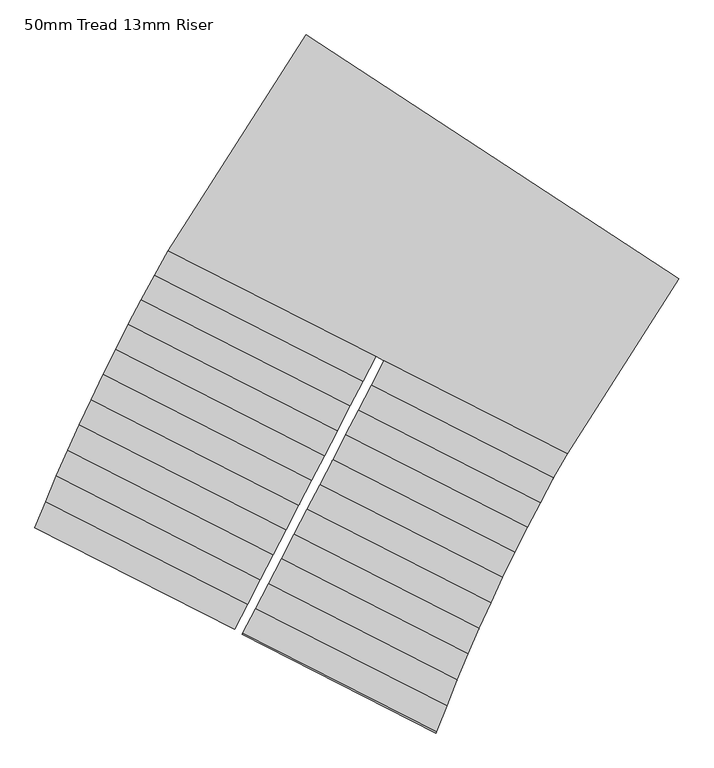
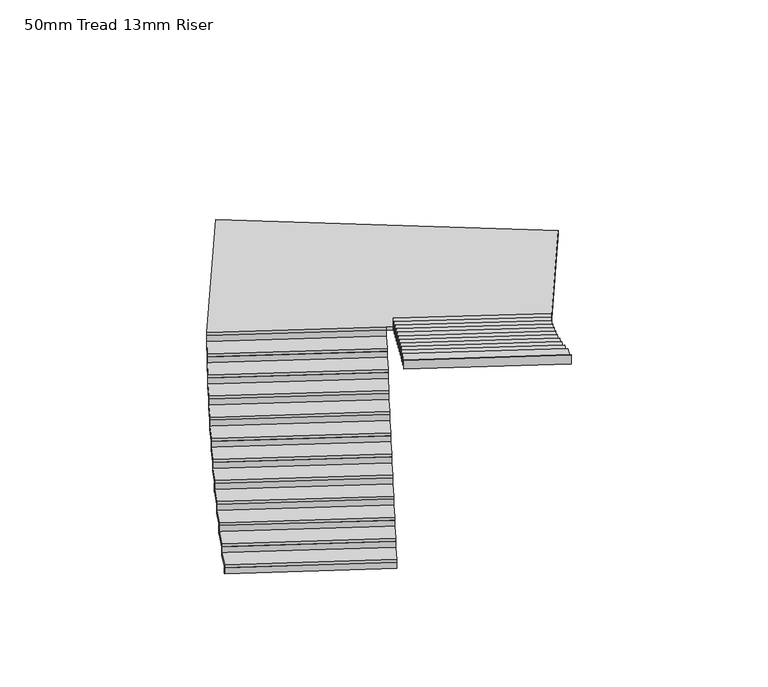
"""IFC4 building model written with IfcOpenShell, lengths in millimetres: stair flight geometry, 50mm Tread 13mm Riser."""

from ifc_helpers import new_model, si_unit, point, frame, frame_2d, origin, place, context, project, spatial, polyline, circle_curve, trimmed, segment, composite_curve, outline, extrude, source, transform, mapped, element, save


def stair_flight_50mm_tread_13mm_riser_db531893(model_context):
    return source(origin(), model_context, "Body", "SweptSolid", [
        extrude(outline(composite_curve([segment(polyline([(7243.3997598, -26018.0316031), (7237.6463466, -26029.1292848), (5092.865947, -24939.2065624)]), True, "CONTINUOUS"), segment(trimmed(circle_curve(frame_2d((28463.2186017, -34366.1157481)), 25200.0), [point((5092.865947, -24939.2065624))], [point((5097.5624416, -24927.5717816))], False, "CARTESIAN"), True, "CONTINUOUS"), segment(polyline([(5097.5624416, -24927.5717816), (7243.3997598, -26018.0316031)]), True, "CONTINUOUS")], self_intersect=False)), frame((0.0, 0.0, 3600.0), z_axis=(0.0, 0.0, 1.0), x_axis=(1.0, 0.0, 0.0)), (0.0, 0.0, 1.0), 100.0),
        extrude(outline(composite_curve([segment(polyline([(5207.1231707, -24660.7551002), (7375.7282632, -25762.7849242), (7237.6463466, -26029.1292848), (5092.865947, -24939.2065624)]), True, "CONTINUOUS"), segment(trimmed(circle_curve(frame_2d((28463.2186017, -34366.1157481)), 25200.0), [point((5092.865947, -24939.2065624))], [point((5207.1231707, -24660.7551002))], False, "CARTESIAN"), True, "CONTINUOUS")], self_intersect=False)), frame((0.0, 0.0, 3700.0), z_axis=(0.0, 0.0, 1.0), x_axis=(1.0, 0.0, 0.0)), (0.0, 0.0, 1.0), 50.0),
        extrude(outline(composite_curve([segment(polyline([(7381.4816764, -25751.6872425), (7375.7282632, -25762.7849242), (5207.1231707, -24660.7551002)]), True, "CONTINUOUS"), segment(trimmed(circle_curve(frame_2d((28463.2186017, -34366.1157481)), 25200.0), [point((5207.1231707, -24660.7551002))], [point((5211.9536288, -24649.1883962))], False, "CARTESIAN"), True, "CONTINUOUS"), segment(polyline([(5211.9536288, -24649.1883962), (7381.4816764, -25751.6872425)]), True, "CONTINUOUS")], self_intersect=False)), frame((0.0, 0.0, 3700.0), z_axis=(0.0, 0.0, 1.0), x_axis=(1.0, 0.0, 0.0)), (0.0, 0.0, 1.0), 150.0),
        extrude(outline(composite_curve([segment(polyline([(5324.5912847, -24383.9353306), (7513.8101797, -25496.4405635), (7375.7282632, -25762.7849242), (5207.1231707, -24660.7551002)]), True, "CONTINUOUS"), segment(trimmed(circle_curve(frame_2d((28463.2186017, -34366.1157481)), 25200.0), [point((5207.1231707, -24660.7551002))], [point((5324.5912847, -24383.9353306))], False, "CARTESIAN"), True, "CONTINUOUS")], self_intersect=False)), frame((0.0, 0.0, 3850.0), z_axis=(0.0, 0.0, 1.0), x_axis=(1.0, 0.0, 0.0)), (0.0, 0.0, 1.0), 50.0),
        extrude(outline(composite_curve([segment(polyline([(7519.5635929, -25485.3428818), (7513.8101797, -25496.4405635), (5324.5912847, -24383.9353306)]), True, "CONTINUOUS"), segment(trimmed(circle_curve(frame_2d((28463.2186017, -34366.1157481)), 25200.0), [point((5324.5912847, -24383.9353306))], [point((5329.5553484, -24372.4365216))], False, "CARTESIAN"), True, "CONTINUOUS"), segment(polyline([(5329.5553484, -24372.4365216), (7519.5635929, -25485.3428818)]), True, "CONTINUOUS")], self_intersect=False)), frame((0.0, 0.0, 3850.0), z_axis=(0.0, 0.0, 1.0), x_axis=(1.0, 0.0, 0.0)), (0.0, 0.0, 1.0), 150.0),
        extrude(outline(composite_curve([segment(polyline([(5445.2623713, -24108.74323), (7651.8920962, -25230.0962028), (7513.8101797, -25496.4405635), (5324.5912847, -24383.9353306)]), True, "CONTINUOUS"), segment(trimmed(circle_curve(frame_2d((28463.2186017, -34366.1157481)), 25200.0), [point((5324.5912847, -24383.9353306))], [point((5445.2623713, -24108.74323))], False, "CARTESIAN"), True, "CONTINUOUS")], self_intersect=False)), frame((0.0, 0.0, 4000.0), z_axis=(0.0, 0.0, 1.0), x_axis=(1.0, 0.0, 0.0)), (0.0, 0.0, 1.0), 50.0),
        extrude(outline(composite_curve([segment(polyline([(7657.6455094, -25218.9985211), (7651.8920962, -25230.0962028), (5445.2623713, -24108.74323)]), True, "CONTINUOUS"), segment(trimmed(circle_curve(frame_2d((28463.2186017, -34366.1157481)), 25200.0), [point((5445.2623713, -24108.74323))], [point((5450.3597409, -24097.3121637))], False, "CARTESIAN"), True, "CONTINUOUS"), segment(polyline([(5450.3597409, -24097.3121637), (7657.6455094, -25218.9985211)]), True, "CONTINUOUS")], self_intersect=False)), frame((0.0, 0.0, 4000.0), z_axis=(0.0, 0.0, 1.0), x_axis=(1.0, 0.0, 0.0)), (0.0, 0.0, 1.0), 150.0),
        extrude(outline(composite_curve([segment(polyline([(5569.1299073, -23835.1754835), (7789.9740128, -24963.7518422), (7651.8920962, -25230.0962028), (5445.2623713, -24108.74323)]), True, "CONTINUOUS"), segment(trimmed(circle_curve(frame_2d((28463.2186017, -34366.1157481)), 25200.0), [point((5445.2623713, -24108.74323))], [point((5569.1299073, -23835.1754835))], False, "CARTESIAN"), True, "CONTINUOUS")], self_intersect=False)), frame((0.0, 0.0, 4150.0), z_axis=(0.0, 0.0, 1.0), x_axis=(1.0, 0.0, 0.0)), (0.0, 0.0, 1.0), 50.0),
        extrude(outline(composite_curve([segment(polyline([(7795.727426, -24952.6541605), (7789.9740128, -24963.7518422), (5569.1299073, -23835.1754835)]), True, "CONTINUOUS"), segment(trimmed(circle_curve(frame_2d((28463.2186017, -34366.1157481)), 25200.0), [point((5569.1299073, -23835.1754835))], [point((5574.3603413, -23823.8120371))], False, "CARTESIAN"), True, "CONTINUOUS"), segment(polyline([(5574.3603413, -23823.8120371), (7795.727426, -24952.6541605)]), True, "CONTINUOUS")], self_intersect=False)), frame((0.0, 0.0, 4150.0), z_axis=(0.0, 0.0, 1.0), x_axis=(1.0, 0.0, 0.0)), (0.0, 0.0, 1.0), 150.0),
        extrude(outline(composite_curve([segment(polyline([(5696.1887507, -23563.2294781), (7928.0559293, -24697.4074815), (7789.9740128, -24963.7518422), (5569.1299073, -23835.1754835)]), True, "CONTINUOUS"), segment(trimmed(circle_curve(frame_2d((28463.2186017, -34366.1157481)), 25200.0), [point((5569.1299073, -23835.1754835))], [point((5696.1887507, -23563.2294781))], False, "CARTESIAN"), True, "CONTINUOUS")], self_intersect=False)), frame((0.0, 0.0, 4300.0), z_axis=(0.0, 0.0, 1.0), x_axis=(1.0, 0.0, 0.0)), (0.0, 0.0, 1.0), 50.0),
        extrude(outline(composite_curve([segment(polyline([(7933.8093425, -24686.3097998), (7928.0559293, -24697.4074815), (5696.1887507, -23563.2294781)]), True, "CONTINUOUS"), segment(trimmed(circle_curve(frame_2d((28463.2186017, -34366.1157481)), 25200.0), [point((5696.1887507, -23563.2294781))], [point((5701.5520644, -23551.9335578))], False, "CARTESIAN"), True, "CONTINUOUS"), segment(polyline([(5701.5520644, -23551.9335578), (7933.8093425, -24686.3097998)]), True, "CONTINUOUS")], self_intersect=False)), frame((0.0, 0.0, 4300.0), z_axis=(0.0, 0.0, 1.0), x_axis=(1.0, 0.0, 0.0)), (0.0, 0.0, 1.0), 150.0),
        extrude(outline(composite_curve([segment(polyline([(5826.4351287, -23292.9032965), (8066.1378458, -24431.0631208), (7928.0559293, -24697.4074815), (5696.1887507, -23563.2294781)]), True, "CONTINUOUS"), segment(trimmed(circle_curve(frame_2d((28463.2186017, -34366.1157481)), 25200.0), [point((5696.1887507, -23563.2294781))], [point((5826.4351287, -23292.9032965))], False, "CARTESIAN"), True, "CONTINUOUS")], self_intersect=False)), frame((0.0, 0.0, 4450.0), z_axis=(0.0, 0.0, 1.0), x_axis=(1.0, 0.0, 0.0)), (0.0, 0.0, 1.0), 50.0),
        extrude(outline(composite_curve([segment(polyline([(8071.891259, -24419.9654391), (8066.1378458, -24431.0631208), (5826.4351287, -23292.9032965)]), True, "CONTINUOUS"), segment(trimmed(circle_curve(frame_2d((28463.2186017, -34366.1157481)), 25200.0), [point((5826.4351287, -23292.9032965))], [point((5831.9311946, -23281.6748375))], False, "CARTESIAN"), True, "CONTINUOUS"), segment(polyline([(5831.9311946, -23281.6748375), (8071.891259, -24419.9654391)]), True, "CONTINUOUS")], self_intersect=False)), frame((0.0, 0.0, 4450.0), z_axis=(0.0, 0.0, 1.0), x_axis=(1.0, 0.0, 0.0)), (0.0, 0.0, 1.0), 150.0),
        extrude(outline(composite_curve([segment(polyline([(5959.8666306, -23024.1957137), (8204.2197624, -24164.7187602), (8066.1378458, -24431.0631208), (5826.4351287, -23292.9032965)]), True, "CONTINUOUS"), segment(trimmed(circle_curve(frame_2d((28463.2186017, -34366.1157481)), 25200.0), [point((5826.4351287, -23292.9032965))], [point((5959.8666306, -23024.1957137))], False, "CARTESIAN"), True, "CONTINUOUS")], self_intersect=False)), frame((0.0, 0.0, 4600.0), z_axis=(0.0, 0.0, 1.0), x_axis=(1.0, 0.0, 0.0)), (0.0, 0.0, 1.0), 50.0),
        extrude(outline(composite_curve([segment(polyline([(8209.9731756, -24153.6210785), (8204.2197624, -24164.7187602), (5959.8666306, -23024.1957137)]), True, "CONTINUOUS"), segment(trimmed(circle_curve(frame_2d((28463.2186017, -34366.1157481)), 25200.0), [point((5959.8666306, -23024.1957137))], [point((5965.4953778, -23013.0346799))], False, "CARTESIAN"), True, "CONTINUOUS"), segment(polyline([(5965.4953778, -23013.0346799), (8209.9731756, -24153.6210785)]), True, "CONTINUOUS")], self_intersect=False)), frame((0.0, 0.0, 4600.0), z_axis=(0.0, 0.0, 1.0), x_axis=(1.0, 0.0, 0.0)), (0.0, 0.0, 1.0), 150.0),
        extrude(outline(composite_curve([segment(polyline([(6096.4822021, -22757.1061938), (8342.3016789, -23898.3743995), (8204.2197624, -24164.7187602), (5959.8666306, -23024.1957137)]), True, "CONTINUOUS"), segment(trimmed(circle_curve(frame_2d((28463.2186017, -34366.1157481)), 25200.0), [point((5959.8666306, -23024.1957137))], [point((6096.4822021, -22757.1061938))], False, "CARTESIAN"), True, "CONTINUOUS")], self_intersect=False)), frame((0.0, 0.0, 4750.0), z_axis=(0.0, 0.0, 1.0), x_axis=(1.0, 0.0, 0.0)), (0.0, 0.0, 1.0), 50.0),
        extrude(outline(composite_curve([segment(polyline([(8348.0550921, -23887.2767178), (8342.3016789, -23898.3743995), (6096.4822021, -22757.1061938)]), True, "CONTINUOUS"), segment(trimmed(circle_curve(frame_2d((28463.2186017, -34366.1157481)), 25200.0), [point((6096.4822021, -22757.1061938))], [point((6102.2436159, -22746.0125779))], False, "CARTESIAN"), True, "CONTINUOUS"), segment(polyline([(6102.2436159, -22746.0125779), (8348.0550921, -23887.2767178)]), True, "CONTINUOUS")], self_intersect=False)), frame((0.0, 0.0, 4750.0), z_axis=(0.0, 0.0, 1.0), x_axis=(1.0, 0.0, 0.0)), (0.0, 0.0, 1.0), 150.0),
        extrude(outline(composite_curve([segment(polyline([(6236.282143, -22491.6348894), (8480.3835954, -23632.0300388), (8342.3016789, -23898.3743995), (6096.4822021, -22757.1061938)]), True, "CONTINUOUS"), segment(trimmed(circle_curve(frame_2d((28463.2186017, -34366.1157481)), 25200.0), [point((6096.4822021, -22757.1061938))], [point((6236.282143, -22491.6348894))], False, "CARTESIAN"), True, "CONTINUOUS")], self_intersect=False)), frame((0.0, 0.0, 4900.0), z_axis=(0.0, 0.0, 1.0), x_axis=(1.0, 0.0, 0.0)), (0.0, 0.0, 1.0), 50.0),
        extrude(outline(composite_curve([segment(polyline([(8486.1370086, -23620.9323571), (8480.3835954, -23632.0300388), (6236.282143, -22491.6348894)]), True, "CONTINUOUS"), segment(trimmed(circle_curve(frame_2d((28463.2186017, -34366.1157481)), 25200.0), [point((6236.282143, -22491.6348894))], [point((6242.1762655, -22480.6087125))], False, "CARTESIAN"), True, "CONTINUOUS"), segment(polyline([(6242.1762655, -22480.6087125), (8486.1370086, -23620.9323571)]), True, "CONTINUOUS")], self_intersect=False)), frame((0.0, 0.0, 4900.0), z_axis=(0.0, 0.0, 1.0), x_axis=(1.0, 0.0, 0.0)), (0.0, 0.0, 1.0), 150.0),
        extrude(outline(composite_curve([segment(polyline([(6379.2681084, -22227.7826413), (8618.465512, -23365.6856782), (8480.3835954, -23632.0300388), (6236.282143, -22491.6348894)]), True, "CONTINUOUS"), segment(trimmed(circle_curve(frame_2d((28463.2186017, -34366.1157481)), 25200.0), [point((6236.282143, -22491.6348894))], [point((6379.2681084, -22227.7826413))], False, "CARTESIAN"), True, "CONTINUOUS")], self_intersect=False)), frame((0.0, 0.0, 5050.0), z_axis=(0.0, 0.0, 1.0), x_axis=(1.0, 0.0, 0.0)), (0.0, 0.0, 1.0), 50.0),
        extrude(outline(composite_curve([segment(polyline([(8624.2189252, -23354.5879965), (8618.465512, -23365.6856782), (6379.2681084, -22227.7826413)]), True, "CONTINUOUS"), segment(trimmed(circle_curve(frame_2d((28463.2186017, -34366.1157481)), 25200.0), [point((6379.2681084, -22227.7826413))], [point((6385.2950378, -22216.8239536))], False, "CARTESIAN"), True, "CONTINUOUS"), segment(polyline([(6385.2950378, -22216.8239536), (8624.2189252, -23354.5879965)]), True, "CONTINUOUS")], self_intersect=False)), frame((0.0, 0.0, 5050.0), z_axis=(0.0, 0.0, 1.0), x_axis=(1.0, 0.0, 0.0)), (0.0, 0.0, 1.0), 150.0),
        extrude(outline(composite_curve([segment(polyline([(6525.4431115, -21965.5509809), (8756.5474285, -23099.3413175), (8618.465512, -23365.6856782), (6379.2681084, -22227.7826413)]), True, "CONTINUOUS"), segment(trimmed(circle_curve(frame_2d((28463.2186017, -34366.1157481)), 25200.0), [point((6379.2681084, -22227.7826413))], [point((6525.4431115, -21965.5509809))], False, "CARTESIAN"), True, "CONTINUOUS")], self_intersect=False)), frame((0.0, 0.0, 5200.0), z_axis=(0.0, 0.0, 1.0), x_axis=(1.0, 0.0, 0.0)), (0.0, 0.0, 1.0), 50.0),
        extrude(outline(composite_curve([segment(polyline([(8762.2103549, -23088.1976527), (8756.5474285, -23099.3413175), (6525.4431115, -21965.5509809)]), True, "CONTINUOUS"), segment(trimmed(circle_curve(frame_2d((28463.2186017, -34366.1157481)), 25200.0), [point((6525.4431115, -21965.5509809))], [point((6531.603003, -21954.6598612))], False, "CARTESIAN"), True, "CONTINUOUS"), segment(polyline([(6531.603003, -21954.6598612), (8762.2103549, -23088.1976527)]), True, "CONTINUOUS")], self_intersect=False)), frame((0.0, 0.0, 5200.0), z_axis=(0.0, 0.0, 1.0), x_axis=(1.0, 0.0, 0.0)), (0.0, 0.0, 1.0), 150.0),
        extrude(outline(composite_curve([segment(polyline([(10811.4275189, -24143.5789946), (8845.6996858, -23144.6462219), (8756.5474285, -23099.3413175), (6525.4431115, -21965.5509809)]), True, "CONTINUOUS"), segment(trimmed(circle_curve(frame_2d((28463.2186017, -34366.1157481)), 25200.0), [point((6525.4431115, -21965.5509809))], [point((8007.113091, -19649.1953048))], False, "CARTESIAN"), True, "CONTINUOUS"), segment(polyline([(8007.113091, -19649.1953048), (12010.6232883, -22268.7232659)]), True, "CONTINUOUS"), segment(trimmed(circle_curve(frame_2d((29284.4488792, -34638.3554793)), 21246.0078989), [point((12010.6232883, -22268.7232659))], [point((10811.4275189, -24143.5789946))], True, "CARTESIAN"), True, "CONTINUOUS")], self_intersect=False)), frame((0.0, 0.0, 5350.0), z_axis=(0.0, 0.0, 1.0), x_axis=(1.0, 0.0, 0.0)), (0.0, 0.0, 1.0), 50.0),
        extrude(outline(composite_curve([segment(polyline([(8839.9462726, -23155.7439036), (8845.6996858, -23144.6462219), (10811.4275189, -24143.5789946)]), True, "CONTINUOUS"), segment(trimmed(circle_curve(frame_2d((29284.4488792, -34638.3554793)), 21246.0078989), [point((10811.4275189, -24143.5789946))], [point((10805.2495746, -24154.4609404))], True, "CARTESIAN"), True, "CONTINUOUS"), segment(polyline([(10805.2495746, -24154.4609404), (8839.9462726, -23155.7439036)]), True, "CONTINUOUS")], self_intersect=False)), frame((0.0, 0.0, 5350.0), z_axis=(0.0, 0.0, 1.0), x_axis=(1.0, 0.0, 0.0)), (0.0, 0.0, 1.0), 150.0),
        extrude(outline(composite_curve([segment(polyline([(10664.9711296, -24405.6676617), (8707.6177693, -23410.9905826), (8845.6996858, -23144.6462219), (10811.4275189, -24143.5789946)]), True, "CONTINUOUS"), segment(trimmed(circle_curve(frame_2d((29284.4488792, -34638.3554793)), 21246.0078989), [point((10811.4275189, -24143.5789946))], [point((10664.9711296, -24405.6676617))], True, "CARTESIAN"), True, "CONTINUOUS")], self_intersect=False)), frame((0.0, 0.0, 5500.0), z_axis=(0.0, 0.0, 1.0), x_axis=(1.0, 0.0, 0.0)), (0.0, 0.0, 1.0), 50.0),
        extrude(outline(composite_curve([segment(polyline([(8701.8643561, -23422.0882643), (8707.6177693, -23410.9905826), (10664.9711296, -24405.6676617)]), True, "CONTINUOUS"), segment(trimmed(circle_curve(frame_2d((29284.4488792, -34638.3554793)), 21246.0078989), [point((10664.9711296, -24405.6676617))], [point((10658.9509028, -24416.6297555))], True, "CARTESIAN"), True, "CONTINUOUS"), segment(polyline([(10658.9509028, -24416.6297555), (8701.8643561, -23422.0882643)]), True, "CONTINUOUS")], self_intersect=False)), frame((0.0, 0.0, 5500.0), z_axis=(0.0, 0.0, 1.0), x_axis=(1.0, 0.0, 0.0)), (0.0, 0.0, 1.0), 150.0),
        extrude(outline(composite_curve([segment(polyline([(10522.2973079, -24669.6785332), (8569.5358527, -23677.3349433), (8707.6177693, -23410.9905826), (10664.9711296, -24405.6676617)]), True, "CONTINUOUS"), segment(trimmed(circle_curve(frame_2d((29284.4488792, -34638.3554793)), 21246.0078989), [point((10664.9711296, -24405.6676617))], [point((10522.2973079, -24669.6785332))], True, "CARTESIAN"), True, "CONTINUOUS")], self_intersect=False)), frame((0.0, 0.0, 5650.0), z_axis=(0.0, 0.0, 1.0), x_axis=(1.0, 0.0, 0.0)), (0.0, 0.0, 1.0), 50.0),
        extrude(outline(composite_curve([segment(polyline([(8563.7824396, -23688.432625), (8569.5358527, -23677.3349433), (10522.2973079, -24669.6785332)]), True, "CONTINUOUS"), segment(trimmed(circle_curve(frame_2d((29284.4488792, -34638.3554793)), 21246.0078989), [point((10522.2973079, -24669.6785332))], [point((10516.4345844, -24680.7206662))], True, "CARTESIAN"), True, "CONTINUOUS"), segment(polyline([(10516.4345844, -24680.7206662), (8563.7824396, -23688.432625)]), True, "CONTINUOUS")], self_intersect=False)), frame((0.0, 0.0, 5650.0), z_axis=(0.0, 0.0, 1.0), x_axis=(1.0, 0.0, 0.0)), (0.0, 0.0, 1.0), 150.0),
        extrude(outline(composite_curve([segment(polyline([(10383.4020016, -24935.6095499), (8431.4539362, -23943.6793039), (8569.5358527, -23677.3349433), (10522.2973079, -24669.6785332)]), True, "CONTINUOUS"), segment(trimmed(circle_curve(frame_2d((29284.4488792, -34638.3554793)), 21246.0078989), [point((10522.2973079, -24669.6785332))], [point((10383.4020016, -24935.6095499))], True, "CARTESIAN"), True, "CONTINUOUS")], self_intersect=False)), frame((0.0, 0.0, 5800.0), z_axis=(0.0, 0.0, 1.0), x_axis=(1.0, 0.0, 0.0)), (0.0, 0.0, 1.0), 50.0),
        extrude(outline(composite_curve([segment(polyline([(8425.700523, -23954.7769856), (8431.4539362, -23943.6793039), (10383.4020016, -24935.6095499)]), True, "CONTINUOUS"), segment(trimmed(circle_curve(frame_2d((29284.4488792, -34638.3554793)), 21246.0078989), [point((10383.4020016, -24935.6095499))], [point((10377.6966618, -24946.7316613))], True, "CARTESIAN"), True, "CONTINUOUS"), segment(polyline([(10377.6966618, -24946.7316613), (8425.700523, -23954.7769856)]), True, "CONTINUOUS")], self_intersect=False)), frame((0.0, 0.0, 5800.0), z_axis=(0.0, 0.0, 1.0), x_axis=(1.0, 0.0, 0.0)), (0.0, 0.0, 1.0), 150.0),
        extrude(outline(composite_curve([segment(polyline([(10248.2834241, -25203.4598039), (8293.3720197, -24210.0236646), (8431.4539362, -23943.6793039), (10383.4020016, -24935.6095499)]), True, "CONTINUOUS"), segment(trimmed(circle_curve(frame_2d((29284.4488792, -34638.3554793)), 21246.0078989), [point((10383.4020016, -24935.6095499))], [point((10248.2834241, -25203.4598039))], True, "CARTESIAN"), True, "CONTINUOUS")], self_intersect=False)), frame((0.0, 0.0, 5950.0), z_axis=(0.0, 0.0, 1.0), x_axis=(1.0, 0.0, 0.0)), (0.0, 0.0, 1.0), 50.0),
        extrude(outline(composite_curve([segment(polyline([(8287.6186065, -24221.1213463), (8293.3720197, -24210.0236646), (10248.2834241, -25203.4598039)]), True, "CONTINUOUS"), segment(trimmed(circle_curve(frame_2d((29284.4488792, -34638.3554793)), 21246.0078989), [point((10248.2834241, -25203.4598039))], [point((10242.7354426, -25214.6618808))], True, "CARTESIAN"), True, "CONTINUOUS"), segment(polyline([(10242.7354426, -25214.6618808), (8287.6186065, -24221.1213463)]), True, "CONTINUOUS")], self_intersect=False)), frame((0.0, 0.0, 5950.0), z_axis=(0.0, 0.0, 1.0), x_axis=(1.0, 0.0, 0.0)), (0.0, 0.0, 1.0), 150.0),
        extrude(outline(composite_curve([segment(polyline([(10116.9420491, -25473.229536), (8155.2901031, -24476.3680253), (8293.3720197, -24210.0236646), (10248.2834241, -25203.4598039)]), True, "CONTINUOUS"), segment(trimmed(circle_curve(frame_2d((29284.4488792, -34638.3554793)), 21246.0078989), [point((10248.2834241, -25203.4598039))], [point((10116.9420491, -25473.229536))], True, "CARTESIAN"), True, "CONTINUOUS")], self_intersect=False)), frame((0.0, 0.0, 6100.0), z_axis=(0.0, 0.0, 1.0), x_axis=(1.0, 0.0, 0.0)), (0.0, 0.0, 1.0), 50.0),
        extrude(outline(composite_curve([segment(polyline([(8149.53669, -24487.4657069), (8155.2901031, -24476.3680253), (10116.9420491, -25473.229536)]), True, "CONTINUOUS"), segment(trimmed(circle_curve(frame_2d((29284.4488792, -34638.3554793)), 21246.0078989), [point((10116.9420491, -25473.229536))], [point((10111.5514947, -25484.5116133))], True, "CARTESIAN"), True, "CONTINUOUS"), segment(polyline([(10111.5514947, -25484.5116133), (8149.53669, -24487.4657069)]), True, "CONTINUOUS")], self_intersect=False)), frame((0.0, 0.0, 6100.0), z_axis=(0.0, 0.0, 1.0), x_axis=(1.0, 0.0, 0.0)), (0.0, 0.0, 1.0), 150.0),
        extrude(outline(composite_curve([segment(polyline([(9989.380612, -25744.9201361), (8017.2081866, -24742.7123859), (8155.2901031, -24476.3680253), (10116.9420491, -25473.229536)]), True, "CONTINUOUS"), segment(trimmed(circle_curve(frame_2d((29284.4488792, -34638.3554793)), 21246.0078989), [point((10116.9420491, -25473.229536))], [point((9989.380612, -25744.9201361))], True, "CARTESIAN"), True, "CONTINUOUS")], self_intersect=False)), frame((0.0, 0.0, 6250.0), z_axis=(0.0, 0.0, 1.0), x_axis=(1.0, 0.0, 0.0)), (0.0, 0.0, 1.0), 50.0),
        extrude(outline(composite_curve([segment(polyline([(8011.4547734, -24753.8100676), (8017.2081866, -24742.7123859), (9989.380612, -25744.9201361)]), True, "CONTINUOUS"), segment(trimmed(circle_curve(frame_2d((29284.4488792, -34638.3554793)), 21246.0078989), [point((9989.380612, -25744.9201361))], [point((9984.1476479, -25756.2822968))], True, "CARTESIAN"), True, "CONTINUOUS"), segment(polyline([(9984.1476479, -25756.2822968), (8011.4547734, -24753.8100676)]), True, "CONTINUOUS")], self_intersect=False)), frame((0.0, 0.0, 6250.0), z_axis=(0.0, 0.0, 1.0), x_axis=(1.0, 0.0, 0.0)), (0.0, 0.0, 1.0), 150.0),
        extrude(outline(composite_curve([segment(polyline([(9865.6041181, -26018.5341479), (7879.1262701, -25009.0567466), (8017.2081866, -24742.7123859), (9989.380612, -25744.9201361)]), True, "CONTINUOUS"), segment(trimmed(circle_curve(frame_2d((29284.4488792, -34638.3554793)), 21246.0078989), [point((9989.380612, -25744.9201361))], [point((9865.6041181, -26018.5341479))], True, "CARTESIAN"), True, "CONTINUOUS")], self_intersect=False)), frame((0.0, 0.0, 6400.0), z_axis=(0.0, 0.0, 1.0), x_axis=(1.0, 0.0, 0.0)), (0.0, 0.0, 1.0), 50.0),
        extrude(outline(composite_curve([segment(polyline([(7873.3728569, -25020.1544283), (7879.1262701, -25009.0567466), (9865.6041181, -26018.5341479)]), True, "CONTINUOUS"), segment(trimmed(circle_curve(frame_2d((29284.4488792, -34638.3554793)), 21246.0078989), [point((9865.6041181, -26018.5341479))], [point((9860.5290023, -26029.976523))], True, "CARTESIAN"), True, "CONTINUOUS"), segment(polyline([(9860.5290023, -26029.976523), (7873.3728569, -25020.1544283)]), True, "CONTINUOUS")], self_intersect=False)), frame((0.0, 0.0, 6400.0), z_axis=(0.0, 0.0, 1.0), x_axis=(1.0, 0.0, 0.0)), (0.0, 0.0, 1.0), 150.0),
        extrude(outline(composite_curve([segment(polyline([(9745.6198577, -26294.075276), (7741.0443535, -25275.4011072), (7879.1262701, -25009.0567466), (9865.6041181, -26018.5341479)]), True, "CONTINUOUS"), segment(trimmed(circle_curve(frame_2d((29284.4488792, -34638.3554793)), 21246.0078989), [point((9865.6041181, -26018.5341479))], [point((9745.6198577, -26294.075276))], True, "CARTESIAN"), True, "CONTINUOUS")], self_intersect=False)), frame((0.0, 0.0, 6550.0), z_axis=(0.0, 0.0, 1.0), x_axis=(1.0, 0.0, 0.0)), (0.0, 0.0, 1.0), 50.0),
        extrude(outline(composite_curve([segment(polyline([(7735.2909404, -25286.4987889), (7741.0443535, -25275.4011072), (9745.6198577, -26294.075276)]), True, "CONTINUOUS"), segment(trimmed(circle_curve(frame_2d((29284.4488792, -34638.3554793)), 21246.0078989), [point((9745.6198577, -26294.075276))], [point((9740.7029438, -26305.5980453))], True, "CARTESIAN"), True, "CONTINUOUS"), segment(polyline([(9740.7029438, -26305.5980453), (7735.2909404, -25286.4987889)]), True, "CONTINUOUS")], self_intersect=False)), frame((0.0, 0.0, 6550.0), z_axis=(0.0, 0.0, 1.0), x_axis=(1.0, 0.0, 0.0)), (0.0, 0.0, 1.0), 150.0),
        extrude(outline(composite_curve([segment(polyline([(9629.437428, -26571.5483976), (7602.962437, -25541.7454679), (7741.0443535, -25275.4011072), (9745.6198577, -26294.075276)]), True, "CONTINUOUS"), segment(trimmed(circle_curve(frame_2d((29284.4488792, -34638.3554793)), 21246.0078989), [point((9745.6198577, -26294.075276))], [point((9629.437428, -26571.5483976))], True, "CARTESIAN"), True, "CONTINUOUS")], self_intersect=False)), frame((0.0, 0.0, 6700.0), z_axis=(0.0, 0.0, 1.0), x_axis=(1.0, 0.0, 0.0)), (0.0, 0.0, 1.0), 50.0),
        extrude(outline(composite_curve([segment(polyline([(7597.2090238, -25552.8431496), (7602.962437, -25541.7454679), (9629.437428, -26571.5483976)]), True, "CONTINUOUS"), segment(trimmed(circle_curve(frame_2d((29284.4488792, -34638.3554793)), 21246.0078989), [point((9629.437428, -26571.5483976))], [point((9624.6791663, -26583.1517899))], True, "CARTESIAN"), True, "CONTINUOUS"), segment(polyline([(9624.6791663, -26583.1517899), (7597.2090238, -25552.8431496)]), True, "CONTINUOUS")], self_intersect=False)), frame((0.0, 0.0, 6700.0), z_axis=(0.0, 0.0, 1.0), x_axis=(1.0, 0.0, 0.0)), (0.0, 0.0, 1.0), 150.0),
        extrude(outline(composite_curve([segment(polyline([(9517.068762, -26850.9595767), (7464.8805205, -25808.0898286), (7602.962437, -25541.7454679), (9629.437428, -26571.5483976)]), True, "CONTINUOUS"), segment(trimmed(circle_curve(frame_2d((29284.4488792, -34638.3554793)), 21246.0078989), [point((9629.437428, -26571.5483976))], [point((9517.068762, -26850.9595767))], True, "CARTESIAN"), True, "CONTINUOUS")], self_intersect=False)), frame((0.0, 0.0, 6850.0), z_axis=(0.0, 0.0, 1.0), x_axis=(1.0, 0.0, 0.0)), (0.0, 0.0, 1.0), 50.0),
        extrude(outline(composite_curve([segment(polyline([(7459.1271073, -25819.1875103), (7464.8805205, -25808.0898286), (9517.068762, -26850.9595767)]), True, "CONTINUOUS"), segment(trimmed(circle_curve(frame_2d((29284.4488792, -34638.3554793)), 21246.0078989), [point((9517.068762, -26850.9595767))], [point((9512.469701, -26862.6438708))], True, "CARTESIAN"), True, "CONTINUOUS"), segment(polyline([(9512.469701, -26862.6438708), (7459.1271073, -25819.1875103)]), True, "CONTINUOUS")], self_intersect=False)), frame((0.0, 0.0, 6850.0), z_axis=(0.0, 0.0, 1.0), x_axis=(1.0, 0.0, 0.0)), (0.0, 0.0, 1.0), 150.0),
        extrude(outline(composite_curve([segment(polyline([(7321.0451908, -26085.5318709), (7326.7986039, -26074.4341892), (9408.5281654, -27132.316083)]), True, "CONTINUOUS"), segment(trimmed(circle_curve(frame_2d((29284.4488792, -34638.3554793)), 21246.0078989), [point((9408.5281654, -27132.316083))], [point((9404.0889532, -27144.0816082))], True, "CARTESIAN"), True, "CONTINUOUS"), segment(polyline([(9404.0889532, -27144.0816082), (7321.0451908, -26085.5318709)]), True, "CONTINUOUS")], self_intersect=False)), frame((0.0, 0.0, 7000.0), z_axis=(0.0, 0.0, 1.0), x_axis=(1.0, 0.0, 0.0)), (0.0, 0.0, 1.0), 150.0),
        extrude(outline(composite_curve([segment(polyline([(9408.5281654, -27132.316083), (7326.7986039, -26074.4341892), (7464.8805205, -25808.0898286), (9517.068762, -26850.9595767)]), True, "CONTINUOUS"), segment(trimmed(circle_curve(frame_2d((29284.4488792, -34638.3554793)), 21246.0078989), [point((9517.068762, -26850.9595767))], [point((9408.5281654, -27132.316083))], True, "CARTESIAN"), True, "CONTINUOUS")], self_intersect=False)), frame((0.0, 0.0, 7000.0), z_axis=(0.0, 0.0, 1.0), x_axis=(1.0, 0.0, 0.0)), (0.0, 0.0, 1.0), 50.0),
    ])


if __name__ == "__main__":
    model = new_model("IFC4")
    model_context = context("Model", 3, world=origin())
    ifc_project = project(units=[si_unit("LENGTHUNIT", "METRE", prefix="MILLI")], contexts=[model_context])
    site = spatial("IfcSite", under=ifc_project)
    building = spatial("IfcBuilding", under=site)
    placement = place(None, origin())
    stair_flight_50mm_tread_13mm_riser_shape = stair_flight_50mm_tread_13mm_riser_db531893(model_context)
    element("IfcStairFlight", 1, ObjectType="50mm Tread 13mm Riser", at=placement, inside=building, context=model_context, shape_type="MappedRepresentation", body=[
        mapped(stair_flight_50mm_tread_13mm_riser_shape, transform((0.0, 0.0, 0.0), x_axis=(1.0, 0.0, 0.0), y_axis=(0.0, 1.0, 0.0), z_axis=(0.0, 0.0, 1.0))),
    ])
    save(model, "model.ifc")
